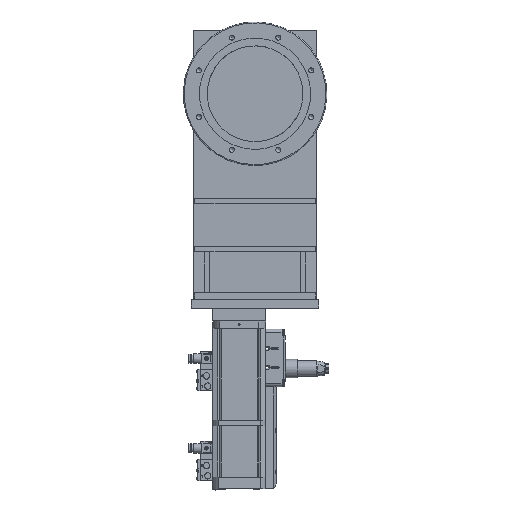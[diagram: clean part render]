
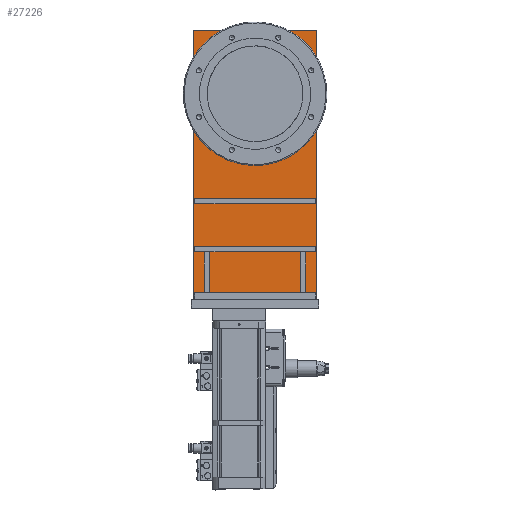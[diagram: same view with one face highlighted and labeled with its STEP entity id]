
A CAD part, top view. The second image highlights one B-rep face of the part: STEP entity #27226.
In plain terms, the highlighted planar face has unit normal (0, 0, 1).
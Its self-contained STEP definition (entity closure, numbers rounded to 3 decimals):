
#12698=LINE('',#87704,#15450);
#12700=LINE('',#87708,#15452);
#12702=LINE('',#87712,#15454);
#12704=LINE('',#87716,#15456);
#15450=VECTOR('',#67066,1.);
#15452=VECTOR('',#67070,1.);
#15454=VECTOR('',#67074,1.);
#15456=VECTOR('',#67078,1.);
#23269=PLANE('',#57169);
#27226=ADVANCED_FACE('',(#29565,#29566),#23269,.F.);
#29565=FACE_BOUND('',#32677,.T.);
#29566=FACE_BOUND('',#32678,.T.);
#32677=EDGE_LOOP('',(#42510));
#32678=EDGE_LOOP('',(#42511,#42512,#42513,#42514));
#42510=ORIENTED_EDGE('',*,*,#51758,.T.);
#42511=ORIENTED_EDGE('',*,*,#51751,.F.);
#42512=ORIENTED_EDGE('',*,*,#51749,.T.);
#42513=ORIENTED_EDGE('',*,*,#51755,.F.);
#42514=ORIENTED_EDGE('',*,*,#51753,.F.);
#46684=VERTEX_POINT('',#87703);
#46685=VERTEX_POINT('',#87705);
#46686=VERTEX_POINT('',#87709);
#46687=VERTEX_POINT('',#87713);
#46690=VERTEX_POINT('',#87724);
#51749=EDGE_CURVE('',#46685,#46684,#12698,.T.);
#51751=EDGE_CURVE('',#46685,#46686,#12700,.T.);
#51753=EDGE_CURVE('',#46686,#46687,#12702,.T.);
#51755=EDGE_CURVE('',#46687,#46684,#12704,.T.);
#51758=EDGE_CURVE('',#46690,#46690,#53559,.T.);
#53559=CIRCLE('',#57168,75.3);
#57168=AXIS2_PLACEMENT_3D('',#87723,#67087,#67088);
#57169=AXIS2_PLACEMENT_3D('',#87725,#67089,#67090);
#67066=DIRECTION('',(0.,1.,0.));
#67070=DIRECTION('',(-1.,0.,0.));
#67074=DIRECTION('',(0.,1.,0.));
#67078=DIRECTION('',(1.,0.,0.));
#67087=DIRECTION('',(0.,0.,-1.));
#67088=DIRECTION('',(0.,1.,0.));
#67089=DIRECTION('',(0.,0.,-1.));
#67090=DIRECTION('',(0.,1.,0.));
#87703=CARTESIAN_POINT('',(322.3,96.225,27.));
#87704=CARTESIAN_POINT('',(322.3,0.,27.));
#87705=CARTESIAN_POINT('',(322.3,-96.225,27.));
#87708=CARTESIAN_POINT('',(323.6,-96.225,27.));
#87709=CARTESIAN_POINT('',(-98.55,-96.225,27.));
#87712=CARTESIAN_POINT('',(-98.55,-96.225,27.));
#87713=CARTESIAN_POINT('',(-98.55,96.225,27.));
#87716=CARTESIAN_POINT('',(-98.55,96.225,27.));
#87723=CARTESIAN_POINT('',(0.,0.,27.));
#87724=CARTESIAN_POINT('',(0.,75.3,27.));
#87725=CARTESIAN_POINT('',(0.,0.,27.));
